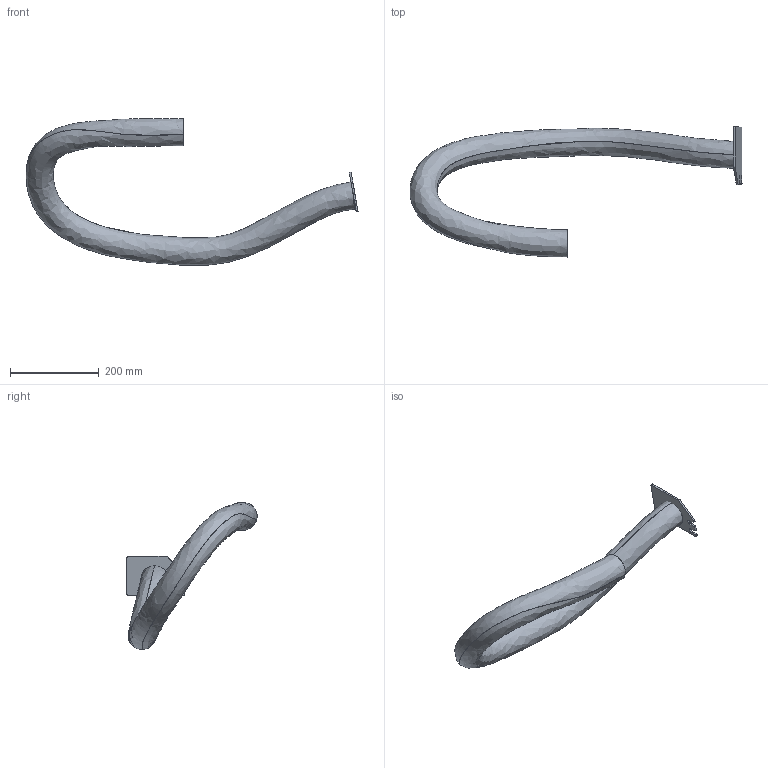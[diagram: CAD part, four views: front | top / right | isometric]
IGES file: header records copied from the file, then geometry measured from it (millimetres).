
Start section: SolidWorks IGES file using analytic representation for surfaces
Global section: file name: B:\DM\Robotics\SEROP_PROJ\Product Development\DevelopmentProjects\HD\3_Design PRMD\4_Struktur SAP o CAD\Lättmodeller\IRB8700-MH3_800-350\IRB8700-MH3_800-350_IRC5_IGES_j\IRB8700-MH3_800-350_IRC5_rev00_LINK3_CABLE.IGS; native system: SolidWorks 2014; preprocessor: SolidWorks 2014; author: sepehak; date: 150604.102019; units: millimetre
Bounding box: 750.27 x 294.11 x 332.13 mm (x, y, z)
Surface area: 270977.8 mm2 (no closed solid volume)
Topology: 0 solids, 0 shells, 30 faces, 456 edges, 456 vertices
Faces by surface type: bspline 17, revolution 13
